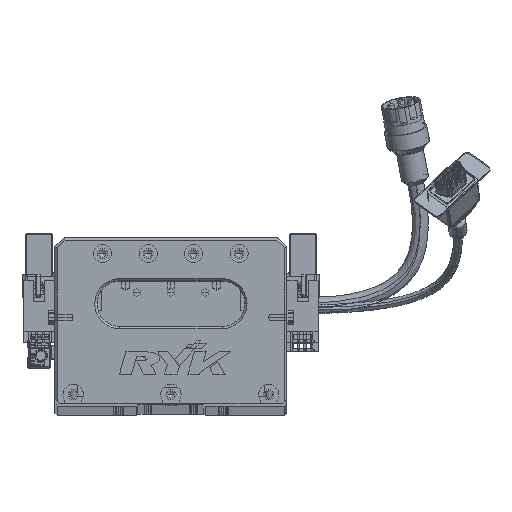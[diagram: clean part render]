
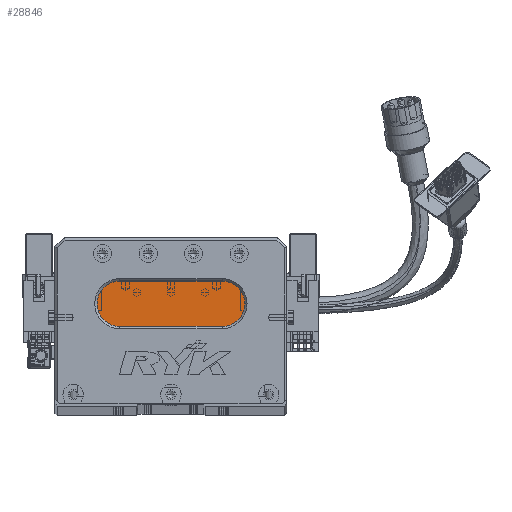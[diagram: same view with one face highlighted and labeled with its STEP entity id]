
A CAD part, top view. The second image highlights one B-rep face of the part: STEP entity #28846.
In plain terms, the highlighted planar face has unit normal (0, 0, 1) as drawn and (0, 0, -1) by its records, which use the part's own axes.
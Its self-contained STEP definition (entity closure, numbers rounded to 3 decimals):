
#697 = CARTESIAN_POINT ( 'NONE',  ( 73.5, 54., 13. ) ) ;
#3380 = CARTESIAN_POINT ( 'NONE',  ( 28.5, 54., 13. ) ) ;
#4522 = CARTESIAN_POINT ( 'NONE',  ( 28.5, 34., 13. ) ) ;
#5127 = EDGE_CURVE ( 'NONE', #21539, #83497, #49440, .T. ) ;
#5438 = DIRECTION ( 'NONE',  ( -1., 0., 0. ) ) ;
#12775 = FACE_OUTER_BOUND ( 'NONE', #43089, .T. ) ;
#15565 = CARTESIAN_POINT ( 'NONE',  ( 18.5, 44., 13. ) ) ;
#21539 = VERTEX_POINT ( 'NONE', #4522 ) ;
#22966 = VECTOR ( 'NONE', #73847, 1000. ) ;
#23541 = VERTEX_POINT ( 'NONE', #3380 ) ;
#24910 = CARTESIAN_POINT ( 'NONE',  ( 28.5, 44., 13. ) ) ;
#28846 = ADVANCED_FACE ( 'NONE', ( #12775 ), #44561, .T. ) ;
#29741 = ORIENTED_EDGE ( 'NONE', *, *, #73301, .T. ) ;
#30121 = AXIS2_PLACEMENT_3D ( 'NONE', #24910, #31739, #77200 ) ;
#31054 = CARTESIAN_POINT ( 'NONE',  ( 73.5, 44., 13. ) ) ;
#31739 = DIRECTION ( 'NONE',  ( 0., 0., -1. ) ) ;
#31958 = EDGE_CURVE ( 'NONE', #58116, #21539, #79883, .T. ) ;
#34521 = DIRECTION ( 'NONE',  ( 1., 0., 0. ) ) ;
#36027 = CARTESIAN_POINT ( 'NONE',  ( 28.5, 44., 13. ) ) ;
#38639 = DIRECTION ( 'NONE',  ( 0., 0., -1. ) ) ;
#42538 = DIRECTION ( 'NONE',  ( -1., 0., 0. ) ) ;
#42807 = DIRECTION ( 'NONE',  ( 0., 0., -1. ) ) ;
#43089 = EDGE_LOOP ( 'NONE', ( #29741, #74598, #46223, #75722, #64433 ) ) ;
#44561 = PLANE ( 'NONE',  #51459 ) ;
#44897 = DIRECTION ( 'NONE',  ( -1., 0., 0. ) ) ;
#46223 = ORIENTED_EDGE ( 'NONE', *, *, #5127, .T. ) ;
#47242 = CARTESIAN_POINT ( 'NONE',  ( 73.5, 54., 13. ) ) ;
#49440 = CIRCLE ( 'NONE', #30121, 10. ) ;
#51131 = DIRECTION ( 'NONE',  ( 0., 0., -1. ) ) ;
#51459 = AXIS2_PLACEMENT_3D ( 'NONE', #58469, #38639, #5438 ) ;
#53414 = CIRCLE ( 'NONE', #58894, 10. ) ;
#54686 = VECTOR ( 'NONE', #34521, 1000. ) ;
#54965 = EDGE_CURVE ( 'NONE', #23541, #78668, #73200, .T. ) ;
#58116 = VERTEX_POINT ( 'NONE', #80205 ) ;
#58469 = CARTESIAN_POINT ( 'NONE',  ( 73.5, 44., 13. ) ) ;
#58894 = AXIS2_PLACEMENT_3D ( 'NONE', #31054, #51131, #44897 ) ;
#64433 = ORIENTED_EDGE ( 'NONE', *, *, #54965, .T. ) ;
#64759 = CIRCLE ( 'NONE', #78112, 10. ) ;
#67187 = EDGE_CURVE ( 'NONE', #83497, #23541, #64759, .T. ) ;
#67884 = CARTESIAN_POINT ( 'NONE',  ( 73.5, 34., 13. ) ) ;
#73200 = LINE ( 'NONE', #47242, #54686 ) ;
#73301 = EDGE_CURVE ( 'NONE', #78668, #58116, #53414, .T. ) ;
#73847 = DIRECTION ( 'NONE',  ( -1., 0., 0. ) ) ;
#74598 = ORIENTED_EDGE ( 'NONE', *, *, #31958, .T. ) ;
#75722 = ORIENTED_EDGE ( 'NONE', *, *, #67187, .T. ) ;
#77200 = DIRECTION ( 'NONE',  ( -1., 0., 0. ) ) ;
#78112 = AXIS2_PLACEMENT_3D ( 'NONE', #36027, #42807, #42538 ) ;
#78668 = VERTEX_POINT ( 'NONE', #697 ) ;
#79883 = LINE ( 'NONE', #67884, #22966 ) ;
#80205 = CARTESIAN_POINT ( 'NONE',  ( 73.5, 34., 13. ) ) ;
#83497 = VERTEX_POINT ( 'NONE', #15565 ) ;
